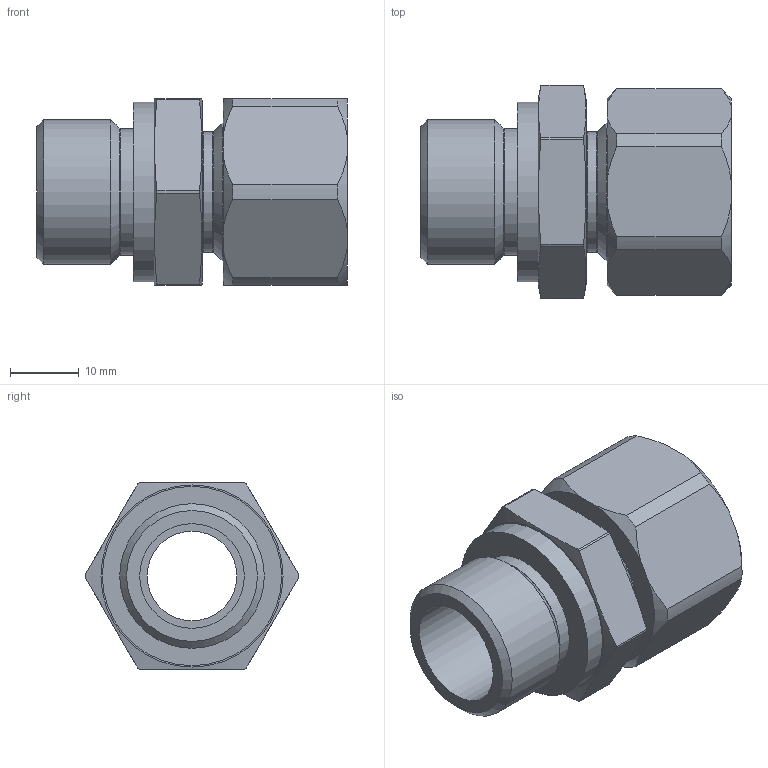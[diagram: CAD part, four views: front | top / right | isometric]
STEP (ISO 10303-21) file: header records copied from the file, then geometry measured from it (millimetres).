
FILE_DESCRIPTION(/* description */ (''),/* implementation_level */ '2;1');
FILE_NAME(/* name */ 'DGV_549312_525734.stp',/* time_stamp */ '2025-09-24T14:06:15+02:00',/* author */ (''),/* organization */ (''),/* preprocessor_version */ 'ST-DEVELOPER v19.4',/* originating_system */ 'SIEMENS PLM Software NX2306.8501',/* authorisation */ '');
FILE_SCHEMA (('AP203_CONFIGURATION_CONTROLLED_3D_DESIGN_OF_MECHANICAL_PARTS_AND_ASSEMBLIES_MIM_LF { 1 0 10303 403 2 1 2}'));
Length unit declared in the file: millimetre
Products named in the file (1): 01_objects
Bounding box: 45 x 31 x 27 mm (x, y, z)
Volume: 13917.7 mm3; surface area: 7650.5 mm2
Topology: 1 solids, 1 shells, 63 faces, 161 edges, 106 vertices
Faces by surface type: cylinder 20, plane 20, cone 20, torus 3
Full cylindrical faces by diameter (mm): 13 x1, 15.17 x1, 17.5 x1, 18.4 x1, 18.5 x1, 20 x1, 20.96 x1, 26 x1
Entity records: 1874 total; most frequent: CARTESIAN_POINT 402, DIRECTION 286, ORIENTED_EDGE 266, EDGE_CURVE 133, AXIS2_PLACEMENT_3D 125, VERTEX_POINT 97, EDGE_LOOP 90, ADVANCED_FACE 63
